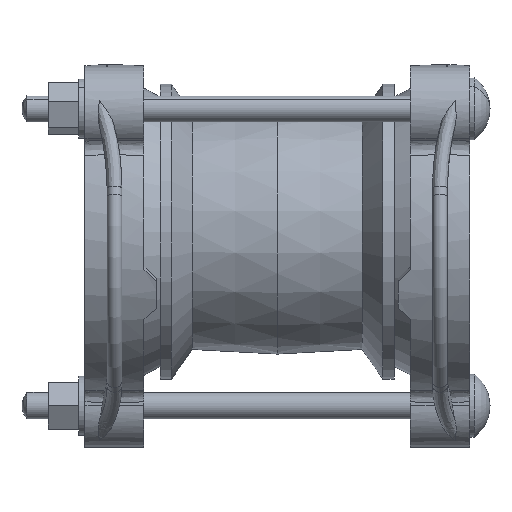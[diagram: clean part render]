
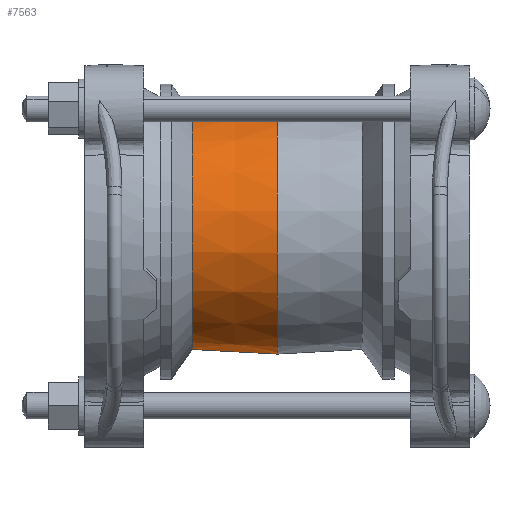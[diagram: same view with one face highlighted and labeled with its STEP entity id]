
A CAD part, left-side view. The second image highlights one B-rep face of the part: STEP entity #7563.
In plain terms, the highlighted conical face has half-angle 3.114 degrees and reference radius 48.818 mm.
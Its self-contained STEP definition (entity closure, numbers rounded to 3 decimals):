
#1313=CARTESIAN_POINT('',(0.,-43.682,0.));
#1314=DIRECTION('',(0.,1.,0.));
#1315=DIRECTION('',(0.,0.,-1.));
#1316=AXIS2_PLACEMENT_3D('',#1313,#1314,#1315);
#1318=CARTESIAN_POINT('',(0.,-78.2,0.));
#1319=DIRECTION('',(0.,-1.,0.));
#1320=DIRECTION('',(0.,0.,1.));
#1321=AXIS2_PLACEMENT_3D('',#1318,#1319,#1320);
#1323=DIRECTION('',(0.,0.999,0.054));
#1324=VECTOR('',#1323,34.569);
#1325=CARTESIAN_POINT('',(0.,-78.2,-49.757));
#1326=LINE('',#1325,#1324);
#1327=DIRECTION('',(0.,0.999,-0.054));
#1328=VECTOR('',#1327,34.569);
#1329=CARTESIAN_POINT('',(0.,-78.2,49.757));
#1330=LINE('',#1329,#1328);
#5316=CARTESIAN_POINT('',(0.,-43.682,-47.879));
#5318=VERTEX_POINT('',#5316);
#5328=CARTESIAN_POINT('',(0.,-43.682,47.879));
#5330=VERTEX_POINT('',#5328);
#5958=CARTESIAN_POINT('',(0.,-78.2,-49.757));
#5959=CARTESIAN_POINT('',(0.,-78.2,49.757));
#5960=VERTEX_POINT('',#5958);
#5961=VERTEX_POINT('',#5959);
#7549=CARTESIAN_POINT('',(0.,-60.941,0.));
#7550=DIRECTION('',(0.,-1.,0.));
#7551=DIRECTION('',(0.,0.,1.));
#7552=AXIS2_PLACEMENT_3D('',#7549,#7550,#7551);
#7553=CONICAL_SURFACE('',#7552,48.818,3.114);
#7555=ORIENTED_EDGE('',*,*,#7554,.T.);
#7557=ORIENTED_EDGE('',*,*,#7556,.T.);
#7558=ORIENTED_EDGE('',*,*,#7544,.T.);
#7560=ORIENTED_EDGE('',*,*,#7559,.F.);
#7561=EDGE_LOOP('',(#7555,#7557,#7558,#7560));
#7562=FACE_OUTER_BOUND('',#7561,.F.);
#7563=ADVANCED_FACE('',(#7562),#7553,.T.);
#1317=CIRCLE('',#1316,47.879);
#1322=CIRCLE('',#1321,49.757);
#7544=EDGE_CURVE('',#5318,#5330,#1317,.T.);
#7554=EDGE_CURVE('',#5961,#5960,#1322,.T.);
#7556=EDGE_CURVE('',#5960,#5318,#1326,.T.);
#7559=EDGE_CURVE('',#5961,#5330,#1330,.T.);
